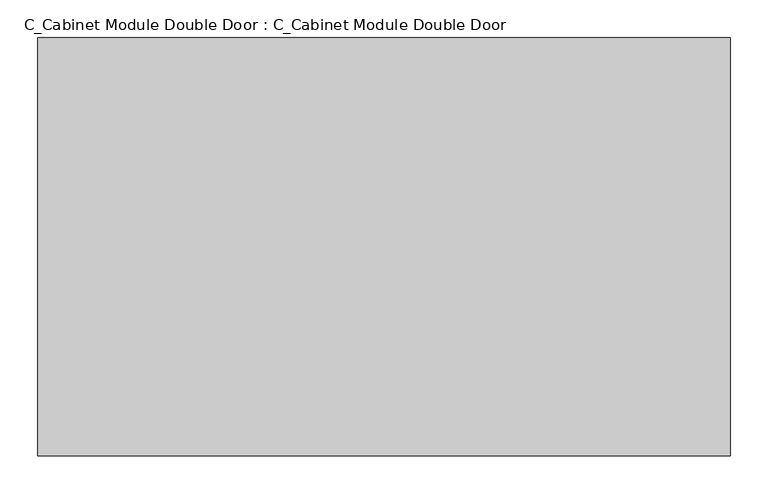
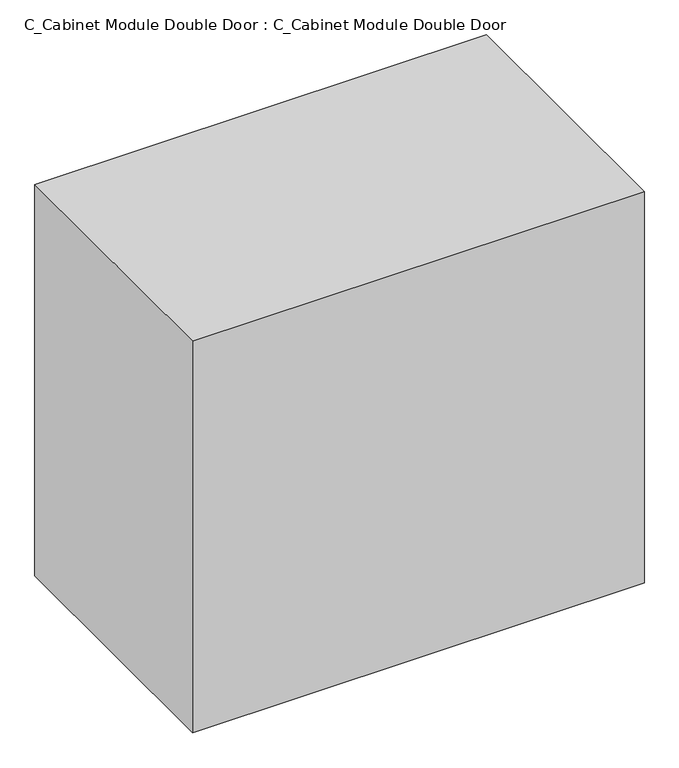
"""IFC4 building model written with IfcOpenShell, lengths in millimetres: furniture geometry, C_Cabinet Module Double Door : C_Cabinet Module Double Door."""

import ifcopenshell
import ifcopenshell.guid

model = None  # the IFC model being written
_history = None  # IfcOwnerHistory: only IFC2X3 demands one
_inside = {}  # id of a spatial element -> (the spatial element, [elements in it])
_under = {}  # id of a project, library or spatial element -> (it, [spatial elements below it])
_declared = {}  # id of a project -> (the project, [libraries it declares])
_typed = {}  # id of a type object -> (the type object, [elements of that type])
_made_of = {}  # id of a material, layer set ... -> (it, [elements and type objects made of it])


def new_model(schema):
    """Start an empty IFC model of exactly this schema.

    Asked for "IFC4X3", IfcOpenShell would pick the latest addendum, in which some entities
    have other attributes; the version numbers below select the first issue.
    IFC2X3 requires an IfcOwnerHistory on every rooted entity: one is made here for all.
    """
    global model, _history
    if schema == "IFC4X3":
        model = ifcopenshell.file(schema_version=(4, 3, 0, 0))
    else:
        model = ifcopenshell.file(schema=schema)
    _inside.clear()
    _under.clear()
    _declared.clear()
    _typed.clear()
    _made_of.clear()
    _history = None
    if model.schema == "IFC2X3":
        org = make("IfcOrganization", Name="unknown")
        user = make(
            "IfcPersonAndOrganization",
            ThePerson=make("IfcPerson", FamilyName="unknown"),
            TheOrganization=org,
        )
        app = make(
            "IfcApplication",
            ApplicationDeveloper=org,
            Version="unknown",
            ApplicationFullName="unknown",
            ApplicationIdentifier="unknown",
        )
        _history = make(
            "IfcOwnerHistory",
            OwningUser=user,
            OwningApplication=app,
            ChangeAction="ADDED",
            CreationDate=0,
        )
    return model


def make(cls, **values):
    """One entity of the class cls with the attributes given. An attribute that is None is left unset."""
    return model.create_entity(
        cls, **{name: value for name, value in values.items() if value is not None}
    )


def rooted(cls, **values):
    """An entity with a GlobalId (a new one), such as an element, a storey or a relation."""
    return make(cls, GlobalId=ifcopenshell.guid.new(), OwnerHistory=_history, **values)


def si_unit(unit_type, name, prefix=None):
    """IfcSIUnit, for example si_unit("LENGTHUNIT", "METRE", prefix="MILLI")."""
    return make("IfcSIUnit", UnitType=unit_type, Prefix=prefix, Name=name)


def assignment(units):
    """IfcUnitAssignment: the units of a project."""
    return None if units is None else make("IfcUnitAssignment", Units=units)


def point(xyz):
    """IfcCartesianPoint."""
    return None if xyz is None else make("IfcCartesianPoint", Coordinates=xyz)


def direction(xyz):
    """IfcDirection."""
    return None if xyz is None else make("IfcDirection", DirectionRatios=xyz)


def frame(location, z_axis=None, x_axis=None):
    """IfcAxis2Placement3D, a coordinate frame: its origin and axes. An axis left out is left unset."""
    return make(
        "IfcAxis2Placement3D",
        Location=point(location),
        Axis=direction(z_axis),
        RefDirection=direction(x_axis),
    )


def origin():
    """The frame at (0, 0, 0) with its axes left unset."""
    return frame((0.0, 0.0, 0.0))


def origin_with_axes():
    """The frame at (0, 0, 0) with the z axis (0, 0, 1) and the x axis (1, 0, 0) written out."""
    return frame((0.0, 0.0, 0.0), z_axis=(0.0, 0.0, 1.0), x_axis=(1.0, 0.0, 0.0))


def place(relative_to, where):
    """IfcLocalPlacement: puts the frame where relative to a parent placement (None: the world)."""
    return make(
        "IfcLocalPlacement", PlacementRelTo=relative_to, RelativePlacement=where
    )


def context(
    kind, dimensions, precision=None, world=None, true_north=None, identifier=None
):
    """IfcGeometricRepresentationContext, for example the 3D "Model" context."""
    return make(
        "IfcGeometricRepresentationContext",
        ContextIdentifier=identifier,
        ContextType=kind,
        CoordinateSpaceDimension=dimensions,
        Precision=precision,
        WorldCoordinateSystem=world,
        TrueNorth=true_north,
    )


def project(units=None, contexts=None):
    """IfcProject with its units and contexts."""
    return rooted(
        "IfcProject",
        Name="project",
        RepresentationContexts=contexts,
        UnitsInContext=assignment(units),
    )


def spatial(cls, under=None, at=None, **own):
    """A site, building, storey or space (cls), placed at a placement, below another one or the project."""
    s = rooted(cls, ObjectPlacement=at, **own)
    if under is not None:
        _under.setdefault(under.id(), (under, []))[1].append(s)
    return s


def polyline(points):
    """IfcPolyline through the points."""
    return make("IfcPolyline", Points=[point(p) for p in points])


def outline(outer, holes=None, kind="AREA"):
    """IfcArbitraryClosedProfileDef: a profile drawn as a closed curve; with holes, ...WithVoids."""
    if holes is None:
        return make("IfcArbitraryClosedProfileDef", ProfileType=kind, OuterCurve=outer)
    return make(
        "IfcArbitraryProfileDefWithVoids",
        ProfileType=kind,
        OuterCurve=outer,
        InnerCurves=holes,
    )


def extrude(swept, where, along, depth):
    """IfcExtrudedAreaSolid: the profile swept, set in the frame where, extruded along a direction by depth."""
    return make(
        "IfcExtrudedAreaSolid",
        SweptArea=swept,
        Position=where,
        ExtrudedDirection=direction(along),
        Depth=depth,
    )


def shape(context_of_items, identifier, shape_type, items):
    """IfcShapeRepresentation: the items that make up one representation, for example the "Body"."""
    return make(
        "IfcShapeRepresentation",
        ContextOfItems=context_of_items,
        RepresentationIdentifier=identifier,
        RepresentationType=shape_type,
        Items=items,
    )


def source(mapping_origin, context_of_items, identifier, shape_type, items):
    """IfcRepresentationMap: a shape defined once, which mapped items show again and again."""
    return make(
        "IfcRepresentationMap",
        MappingOrigin=mapping_origin,
        MappedRepresentation=shape(context_of_items, identifier, shape_type, items),
    )


def transform(
    local_origin,
    x_axis=None,
    y_axis=None,
    z_axis=None,
    scale=None,
    scale2=None,
    scale3=None,
    uniform=True,
):
    """IfcCartesianTransformationOperator3D, or its non-uniform kind. x_axis, y_axis, z_axis: its Axis1, 2, 3."""
    if uniform:
        return make(
            "IfcCartesianTransformationOperator3D",
            Axis1=direction(x_axis),
            Axis2=direction(y_axis),
            LocalOrigin=point(local_origin),
            Scale=scale,
            Axis3=direction(z_axis),
        )
    return make(
        "IfcCartesianTransformationOperator3DnonUniform",
        Axis1=direction(x_axis),
        Axis2=direction(y_axis),
        LocalOrigin=point(local_origin),
        Scale=scale,
        Axis3=direction(z_axis),
        Scale2=scale2,
        Scale3=scale3,
    )


def mapped(mapping_source, mapping_target):
    """IfcMappedItem: shows the shape of a source again, moved by a transform."""
    return make(
        "IfcMappedItem", MappingSource=mapping_source, MappingTarget=mapping_target
    )


def made_of(thing, what):
    """Note that an element or type object is made of a material, layer set ...; save() writes the relation."""
    if what is not None:
        _made_of.setdefault(what.id(), (what, []))[1].append(thing)
    return thing


def element(
    cls,
    number,
    at=None,
    inside=None,
    cuts=None,
    type_object=None,
    material=None,
    context=None,
    identifier="Body",
    shape_type=None,
    held_by="IfcProductDefinitionShape",
    body=None,
    shapes=None,
    **own,
):
    """One element of the class cls, such as IfcWall. Its Tag is "e" and its number.

    at: its placement. inside: the storey or other place that contains it. cuts: it is an
    opening in that element (IfcRelVoidsElement). A single representation is given by context,
    identifier, shape_type and body (its items); several are given by shapes. held_by: the class
    of the entity that holds the representations. save() writes the other relations.
    """
    e = rooted(cls, Tag="e%d" % number, ObjectPlacement=at, **own)
    if body is not None:
        shapes = [shape(context, identifier, shape_type, body)]
    if shapes is not None:
        e.Representation = make(held_by, Representations=shapes)
    if inside is not None:
        _inside.setdefault(inside.id(), (inside, []))[1].append(e)
    if cuts is not None:
        rooted(
            "IfcRelVoidsElement", RelatingBuildingElement=cuts, RelatedOpeningElement=e
        )
    if type_object is not None:
        _typed.setdefault(type_object.id(), (type_object, []))[1].append(e)
    return made_of(e, material)


def aggregate(whole, parts):
    """IfcRelAggregates: a whole, such as a stair, and the parts it consists of."""
    return rooted("IfcRelAggregates", RelatingObject=whole, RelatedObjects=parts)


def save(model, path):
    """Write the relations noted so far, then the file.

    IfcRelAggregates (storeys below a building ...), IfcRelContainedInSpatialStructure (elements
    in a storey), IfcRelDefinesByType, IfcRelAssociatesMaterial and IfcRelDeclares: one each for
    every whole, place, type object, material and project.
    """
    for whole, parts in _under.values():
        aggregate(whole, parts)
    for where, things in _inside.values():
        rooted(
            "IfcRelContainedInSpatialStructure",
            RelatedElements=things,
            RelatingStructure=where,
        )
    for kind, things in _typed.values():
        rooted("IfcRelDefinesByType", RelatedObjects=things, RelatingType=kind)
    for what, things in _made_of.values():
        rooted("IfcRelAssociatesMaterial", RelatedObjects=things, RelatingMaterial=what)
    for by, libraries in _declared.values():
        rooted("IfcRelDeclares", RelatingContext=by, RelatedDefinitions=libraries)
    model.write(path)


def c_cabinet_module_double_door_c_cabinet_module_double_door_bf593a0d(model_context):
    return source(origin(), model_context, "Body", "SweptSolid", [
        extrude(outline(polyline([(457.2, 0.0), (-457.2, 0.0), (-457.2, 552.45), (457.2, 552.45), (457.2, 0.0)])), origin_with_axes(), (0.0, 0.0, 1.0), 838.2),
    ])


if __name__ == "__main__":
    model = new_model("IFC4")
    model_context = context("Model", 3, world=origin())
    ifc_project = project(units=[si_unit("LENGTHUNIT", "METRE", prefix="MILLI")], contexts=[model_context])
    site = spatial("IfcSite", under=ifc_project)
    building = spatial("IfcBuilding", under=site)
    placement = place(None, origin())
    c_cabinet_module_double_door_c_cabinet_module_double_door_shape = c_cabinet_module_double_door_c_cabinet_module_double_door_bf593a0d(model_context)
    element("IfcFurniture", 1, ObjectType="C_Cabinet Module Double Door : C_Cabinet Module Double Door", at=placement, inside=building, context=model_context, shape_type="MappedRepresentation", body=[
        mapped(c_cabinet_module_double_door_c_cabinet_module_double_door_shape, transform((0.0, 0.0, 0.0), x_axis=(1.0, 0.0, 0.0), y_axis=(0.0, 1.0, 0.0), z_axis=(0.0, 0.0, 1.0))),
    ])
    save(model, "model.ifc")
